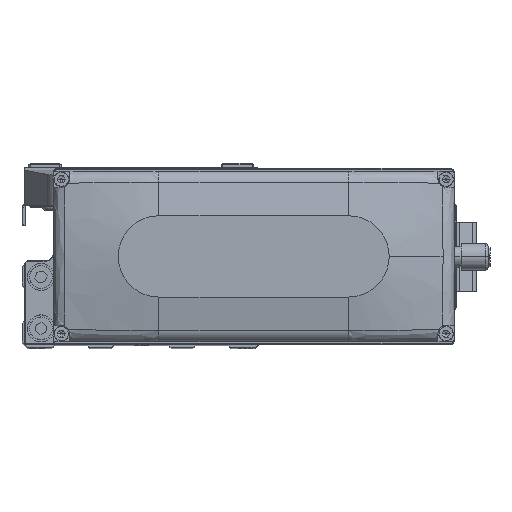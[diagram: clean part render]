
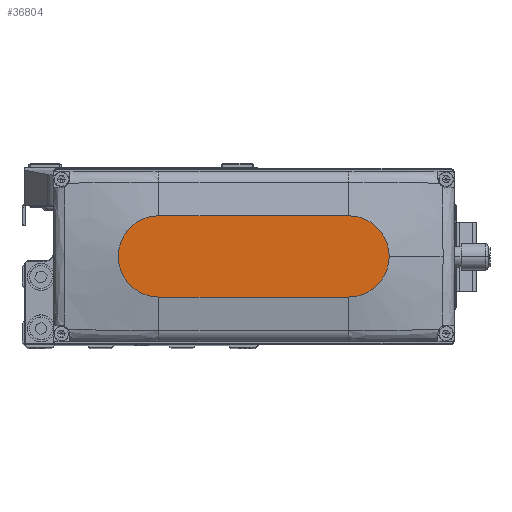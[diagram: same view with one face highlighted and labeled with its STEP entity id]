
A CAD part, top view. The second image highlights one B-rep face of the part: STEP entity #36804.
In plain terms, the highlighted planar face has unit normal (0, 0, 1).
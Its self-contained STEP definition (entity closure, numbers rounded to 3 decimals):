
#1000 = DIRECTION ( 'NONE',  ( -1., 0., 0. ) ) ;
#1379 = VERTEX_POINT ( 'NONE', #14167 ) ;
#1603 = LINE ( 'NONE', #15620, #13278 ) ;
#2496 = CARTESIAN_POINT ( 'NONE',  ( 35., 15., 35. ) ) ;
#2648 = ORIENTED_EDGE ( 'NONE', *, *, #18593, .T. ) ;
#5243 = CARTESIAN_POINT ( 'NONE',  ( 0., 0., 35. ) ) ;
#5665 = VECTOR ( 'NONE', #1000, 1000. ) ;
#5915 = CIRCLE ( 'NONE', #31615, 15. ) ;
#7789 = DIRECTION ( 'NONE',  ( 1., 0., 0. ) ) ;
#8958 = ORIENTED_EDGE ( 'NONE', *, *, #19378, .T. ) ;
#10121 = AXIS2_PLACEMENT_3D ( 'NONE', #42877, #11378, #25399 ) ;
#11378 = DIRECTION ( 'NONE',  ( 0., 0., 1. ) ) ;
#11733 = ORIENTED_EDGE ( 'NONE', *, *, #33296, .T. ) ;
#12486 = CARTESIAN_POINT ( 'NONE',  ( 35., 0., 35. ) ) ;
#13211 = AXIS2_PLACEMENT_3D ( 'NONE', #12486, #26516, #40530 ) ;
#13278 = VECTOR ( 'NONE', #29628, 1000. ) ;
#13466 = CARTESIAN_POINT ( 'NONE',  ( 50., 0., 35. ) ) ;
#14167 = CARTESIAN_POINT ( 'NONE',  ( -35., -15., 35. ) ) ;
#15104 = CARTESIAN_POINT ( 'NONE',  ( 35., -15., 35. ) ) ;
#15620 = CARTESIAN_POINT ( 'NONE',  ( -35., -15., 35. ) ) ;
#16430 = VERTEX_POINT ( 'NONE', #15104 ) ;
#18453 = LINE ( 'NONE', #32481, #5665 ) ;
#18593 = EDGE_CURVE ( 'NONE', #33413, #41250, #18453, .T. ) ;
#19280 = DIRECTION ( 'NONE',  ( 0., 0., 1. ) ) ;
#19378 = EDGE_CURVE ( 'NONE', #38627, #33413, #29942, .T. ) ;
#22715 = FACE_OUTER_BOUND ( 'NONE', #30796, .T. ) ;
#23269 = ORIENTED_EDGE ( 'NONE', *, *, #33190, .T. ) ;
#25277 = CARTESIAN_POINT ( 'NONE',  ( -35., 0., 35. ) ) ;
#25399 = DIRECTION ( 'NONE',  ( 1., 0., 0. ) ) ;
#26516 = DIRECTION ( 'NONE',  ( 0., 0., 1. ) ) ;
#29628 = DIRECTION ( 'NONE',  ( 1., 0., 0. ) ) ;
#29942 = CIRCLE ( 'NONE', #10121, 15. ) ;
#30796 = EDGE_LOOP ( 'NONE', ( #2648, #23269, #11733, #34342, #8958 ) ) ;
#31615 = AXIS2_PLACEMENT_3D ( 'NONE', #25277, #39286, #7789 ) ;
#32444 = EDGE_CURVE ( 'NONE', #16430, #38627, #33040, .T. ) ;
#32481 = CARTESIAN_POINT ( 'NONE',  ( -35., 15., 35. ) ) ;
#33040 = CIRCLE ( 'NONE', #13211, 15. ) ;
#33190 = EDGE_CURVE ( 'NONE', #41250, #1379, #5915, .T. ) ;
#33296 = EDGE_CURVE ( 'NONE', #1379, #16430, #1603, .T. ) ;
#33302 = DIRECTION ( 'NONE',  ( 1., 0., 0. ) ) ;
#33413 = VERTEX_POINT ( 'NONE', #2496 ) ;
#34342 = ORIENTED_EDGE ( 'NONE', *, *, #32444, .T. ) ;
#36744 = PLANE ( 'NONE',  #41419 ) ;
#36804 = ADVANCED_FACE ( 'NONE', ( #22715 ), #36744, .T. ) ;
#37236 = CARTESIAN_POINT ( 'NONE',  ( -35., 15., 35. ) ) ;
#38627 = VERTEX_POINT ( 'NONE', #13466 ) ;
#39286 = DIRECTION ( 'NONE',  ( 0., 0., 1. ) ) ;
#40530 = DIRECTION ( 'NONE',  ( 1., 0., 0. ) ) ;
#41250 = VERTEX_POINT ( 'NONE', #37236 ) ;
#41419 = AXIS2_PLACEMENT_3D ( 'NONE', #5243, #19280, #33302 ) ;
#42877 = CARTESIAN_POINT ( 'NONE',  ( 35., 0., 35. ) ) ;
